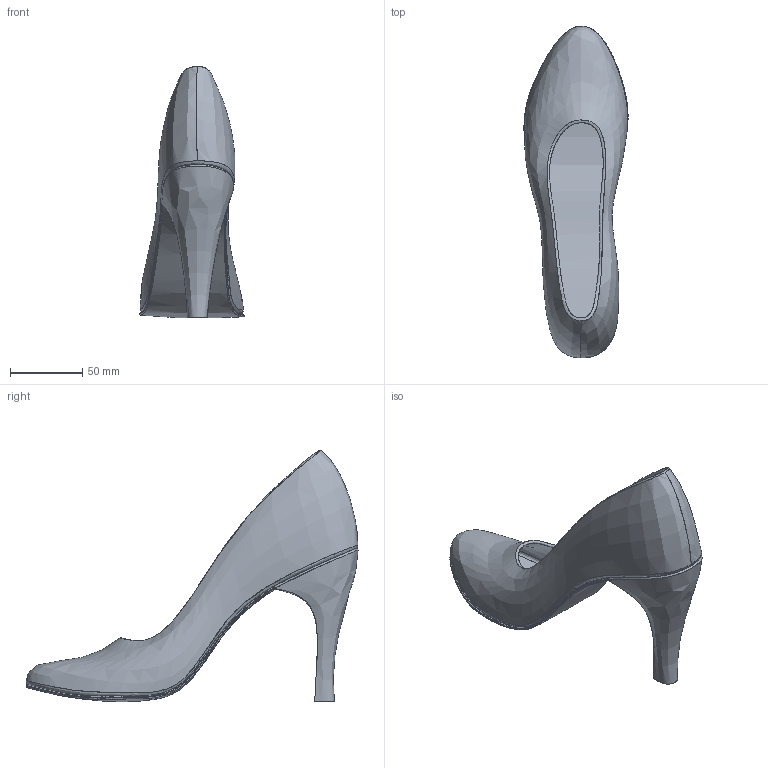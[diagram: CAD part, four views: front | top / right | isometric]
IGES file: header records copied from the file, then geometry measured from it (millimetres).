
Start section: The copyright of this model is belonged to Atsuo Nakajima and  AppliCraft Co., Ltd. The use of this model data is allowed to non profit purpose by author's consent. 151-0063 Tomigaya 1-6-9 A-1 Bldg, 2F Shibuya, Tokyo, Japan TEL 81-3-5790-8431 FAX 81-3-5790-8432 URL:http://www.applicraft.com  http://www.rhino3d.co.jp
Global section: file name: C:\Users\watanabe\Desktop\; native system: Rhinoceros ( Aug 10 2015 ); preprocessor: Trout Lake IGES 012 Aug 10 2015; date: 160907.082702; units: millimetre
Bounding box: 72.16 x 230.12 x 174.12 mm (x, y, z)
Surface area: 111873.3 mm2 (no closed solid volume)
Topology: 0 solids, 0 shells, 27 faces, 1410 edges, 1404 vertices
Faces by surface type: bspline 27
